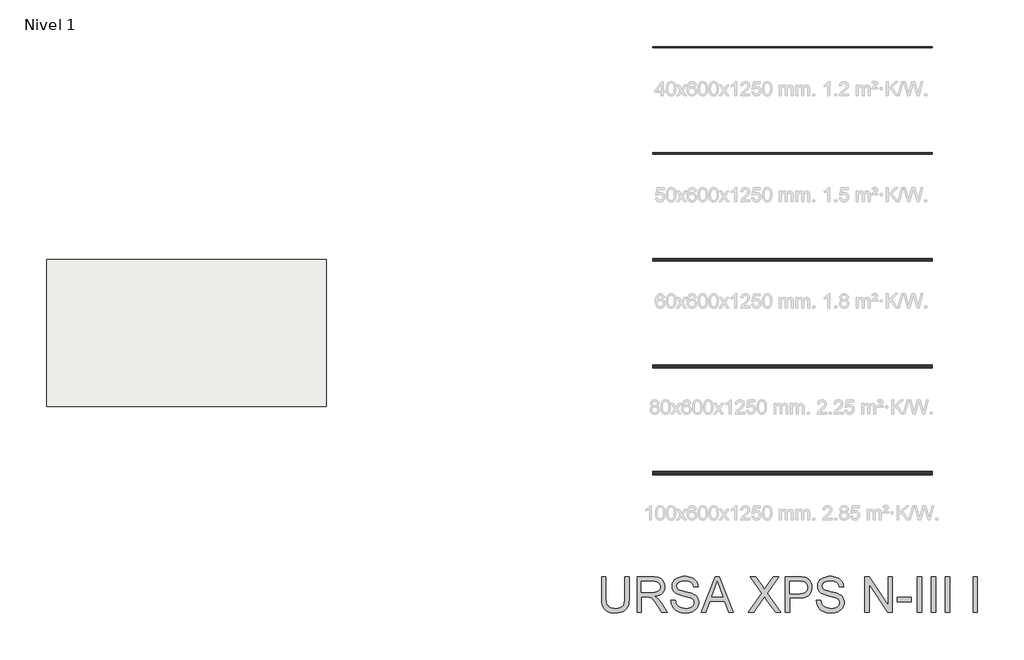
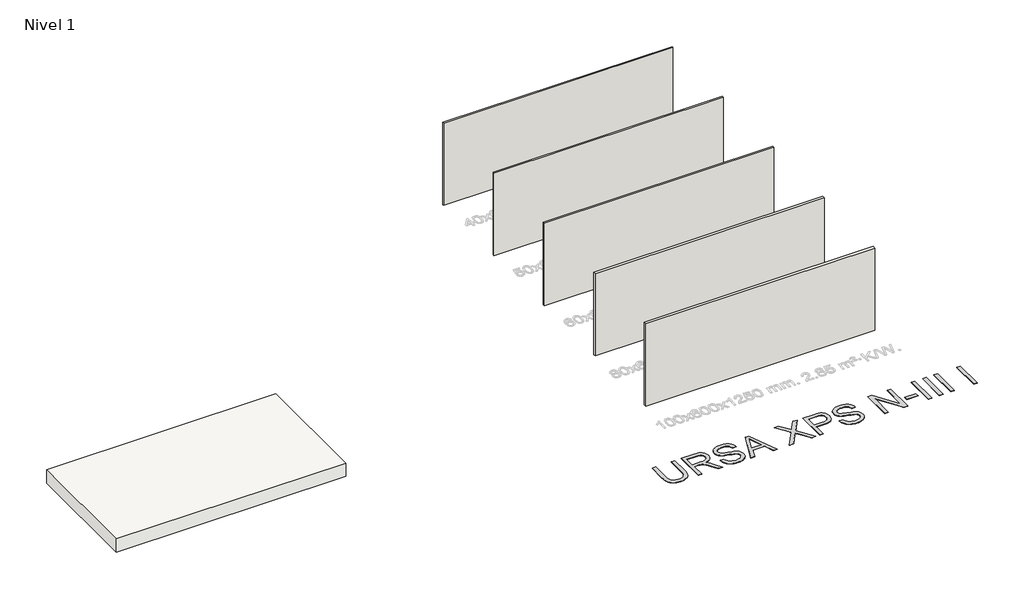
# One storey, part 1 of 6: 5 walls, 1 proxy, 1 slab.
"""IFC4 building model written with IfcOpenShell, lengths in millimetres."""

from ifc_helpers import new_model, si_unit, frame, origin, origin_with_axes, place, context, project, spatial, polyline, outline, extrude, element, save

model = new_model("IFC4")

# Units and contexts
model_context = context("Model", 3, world=origin())
ifc_project = project(units=[si_unit("LENGTHUNIT", "METRE", prefix="MILLI")], contexts=[model_context])

# Site, building, storey
site = spatial("IfcSite", under=ifc_project)
building = spatial("IfcBuilding", under=site)
storey = spatial("IfcBuildingStorey", under=building, Name="Nivel 1", Elevation=0.0)

# Proxy
placement = place(None, origin())
element("IfcBuildingElementProxy", 1, Name="Texto de modelo 2", ObjectType="Texto de modelo 2", at=placement, inside=storey, context=model_context, shape_type="SweptSolid", body=[
    extrude(outline(polyline([(-7324.4121984, -11003.8387308), (-7198.8418107, -11003.8387308), (-7198.8418107, -11583.3755006), (-7200.9724606, -11655.1354823), (-7207.3644103, -11719.0933), (-7218.0176597, -11775.2489537), (-7232.932209, -11823.6024434), (-7253.3956449, -11865.985515), (-7280.6955547, -11904.229914), (-7314.8319381, -11938.3356407), (-7355.8047954, -11968.3026949), (-7403.6601116, -11992.7131981), (-7458.443872, -12010.1492718), (-7520.1560767, -12020.6109161), (-7588.7967256, -12024.0981308), (-7655.7435845, -12021.0631043), (-7716.2984938, -12011.958025), (-7770.4614534, -11996.7828927), (-7818.2324633, -11975.5377074), (-7859.6191877, -11948.5367018), (-7894.629291, -11916.0941084), (-7923.2627729, -11878.2099271), (-7945.5196336, -11834.8841579), (-7962.2046149, -11784.6299446), (-7974.1224587, -11725.9604305), (-7981.273165, -11658.8756159), (-7983.6567338, -11583.3755006), (-7983.6567338, -11003.8387308), (-7858.0863461, -11003.8387308), (-7858.0863461, -11578.9609166), (-7856.538176, -11639.66911), (-7851.8936659, -11691.8087187), (-7844.1528155, -11735.3797425), (-7833.3156251, -11770.3821815), (-7818.7076442, -11799.3452244), (-7799.6544225, -11824.7980599), (-7776.1559601, -11846.7406881), (-7748.2122569, -11865.1731089), (-7716.3598075, -11879.7657614), (-7681.1351064, -11890.1890846), (-7642.5381538, -11896.4430785), (-7600.5689495, -11898.5277431), (-7531.3611491, -11894.4043991), (-7472.8525835, -11882.034367), (-7425.0432525, -11861.4176468), (-7405.1508001, -11848.0167788), (-7387.9331563, -11832.5542386), (-7373.0454318, -11814.1601389), (-7360.1427372, -11791.9645918), (-7340.2924379, -11736.1691559), (-7328.3822583, -11665.1679308), (-7324.4121984, -11578.9609166), (-7324.4121984, -11003.8387308)])), origin_with_axes(), (0.0, 0.0, 1.0), 10.0),
    extrude(outline(polyline([(-6979.0936323, -12008.4018323), (-6979.0936323, -11003.8387308), (-6546.2191513, -11003.8387308), (-6484.0854152, -11005.5325209), (-6429.8764703, -11010.6138909), (-6383.5923168, -11019.082841), (-6345.2329546, -11030.9393712), (-6312.5680991, -11047.0955221), (-6283.3674657, -11068.4633347), (-6257.6310545, -11095.0428088), (-6235.3588654, -11126.8339446), (-6217.3862971, -11162.1276235), (-6204.5487483, -11199.2147271), (-6196.846219, -11238.0952555), (-6194.2787092, -11278.7692086), (-6198.5323448, -11330.3646584), (-6211.2932515, -11377.7294653), (-6232.5614294, -11420.8636292), (-6262.3368784, -11459.7671502), (-6301.0028089, -11493.1984265), (-6348.9424314, -11519.9158564), (-6406.1557458, -11539.9194399), (-6472.6427523, -11553.209177), (-6431.2560278, -11580.2485036), (-6401.2736452, -11606.9199483), (-6349.8314795, -11667.9270458), (-6299.4929599, -11736.1691559), (-6131.9840247, -12008.4018323), (-6277.9105495, -12008.4018323), (-6408.6312851, -11800.1806231), (-6460.9318421, -11720.7181121), (-6503.0543305, -11662.3475022), (-6538.1564042, -11622.1563942), (-6569.395717, -11597.2323891), (-6598.9795608, -11582.6090798), (-6629.1152275, -11573.3200594), (-6701.9558626, -11568.9054754), (-6853.5232446, -11568.9054754), (-6853.5232446, -12008.4018323), (-6979.0936323, -12008.4018323)]), holes=[polyline([(-6853.5232446, -11443.3350877), (-6572.4614003, -11443.3350877), (-6491.7419592, -11438.889847), (-6429.1100495, -11425.5541246), (-6403.9254613, -11415.3300709), (-6381.9598405, -11402.4388726), (-6363.2131871, -11386.8805299), (-6347.6855012, -11368.6550427), (-6335.5070744, -11348.6591234), (-6326.808198, -11327.7894844), (-6321.5888722, -11306.0461257), (-6319.8490969, -11283.4290472), (-6323.1676991, -11251.3160147), (-6333.1235056, -11222.176695), (-6349.7165164, -11196.0110881), (-6372.9467316, -11172.819194), (-6403.3506456, -11153.827286), (-6441.4647532, -11140.2616374), (-6487.2890542, -11132.1222482), (-6540.8235487, -11129.4091185), (-6853.5232446, -11129.4091185), (-6853.5232446, -11443.3350877)])]), origin_with_axes(), (0.0, 0.0, 1.0), 10.0),
    extrude(outline(polyline([(-6021.6194262, -11663.0832662), (-5896.0490385, -11663.0832662), (-5890.3008823, -11699.6338753), (-5881.640327, -11732.7662475), (-5870.0673726, -11762.4803828), (-5855.582019, -11788.7762812), (-5837.4485023, -11812.1827732), (-5814.9310586, -11833.228689), (-5788.0296877, -11851.9140286), (-5756.7443897, -11868.2387922), (-5722.2247958, -11881.4902082), (-5685.6205373, -11890.9555054), (-5646.9316141, -11896.6346837), (-5606.1580263, -11898.5277431), (-5536.1991335, -11892.7949154), (-5504.4846399, -11885.6288807), (-5474.9467813, -11875.5964321), (-5448.3136577, -11863.0577874), (-5425.3133688, -11848.3731644), (-5405.9459146, -11831.5425632), (-5390.2112951, -11812.5659836), (-5378.0328682, -11792.263496), (-5369.3339919, -11771.4551706), (-5364.1146661, -11750.1410075), (-5362.3748908, -11728.3210067), (-5367.5865524, -11686.2904887), (-5383.2215372, -11649.9621417), (-5396.3733185, -11633.8443118), (-5414.9820161, -11618.9680836), (-5439.04763, -11605.3334572), (-5468.5701601, -11592.9404325), (-5534.8808897, -11573.2280889), (-5651.4075117, -11544.9931457), (-5771.4290126, -11513.2633237), (-5815.2299627, -11497.9732282), (-5848.2243791, -11483.0663432), (-5881.7552901, -11463.0627597), (-5910.7336615, -11440.8212274), (-5935.1594931, -11416.3417463), (-5955.0327851, -11389.6243164), (-5970.4301794, -11360.9448492), (-5981.4283182, -11330.5792562), (-5988.0272015, -11298.5275374), (-5990.2268293, -11264.7896928), (-5987.5060353, -11227.3960208), (-5979.3436536, -11191.2439506), (-5965.739684, -11156.333482), (-5946.6941265, -11122.6646153), (-5922.421579, -11091.6092435), (-5893.1366394, -11064.53926), (-5858.8393075, -11041.4546648), (-5819.5295835, -11022.3554579), (-5776.5333753, -11007.3872593), (-5731.176591, -10996.6956888), (-5683.4592305, -10990.2807465), (-5633.3812939, -10988.1424324), (-5578.7508177, -10990.3803812), (-5527.4312793, -10997.0942276), (-5479.422679, -11008.2839716), (-5434.7250165, -11023.9496132), (-5394.1660266, -11043.9531967), (-5358.5734435, -11068.1567663), (-5327.9472674, -11096.560322), (-5302.2874983, -11129.1638639), (-5281.7934055, -11165.01703), (-5266.6642584, -11203.1694586), (-5256.9000571, -11243.6211496), (-5252.5008016, -11286.3721031), (-5378.0711893, -11286.3721031), (-5386.4711615, -11246.3036225), (-5401.1251276, -11211.4468035), (-5422.0330877, -11181.801646), (-5449.1950417, -11157.3681502), (-5483.1168273, -11138.2689432), (-5524.3042824, -11124.6266526), (-5572.7574068, -11116.4412782), (-5628.4762007, -11113.7128201), (-5685.9730908, -11116.4106214), (-5735.1006656, -11124.5040253), (-5775.858925, -11137.9930317), (-5808.247869, -11156.8776408), (-5832.9266195, -11179.5790256), (-5850.5542984, -11204.5183592), (-5861.1309058, -11231.6956416), (-5864.6564416, -11261.1108728), (-5862.1579097, -11286.4180884), (-5854.662314, -11309.3647278), (-5842.1696546, -11329.9507911), (-5824.6799314, -11348.1762783), (-5797.1500955, -11365.4360753), (-5753.8013337, -11382.8798132), (-5694.6336461, -11400.5074921), (-5619.6470328, -11418.3191121), (-5481.2007753, -11451.9803146), (-5432.4870677, -11467.2014322), (-5397.4463077, -11481.3495606), (-5358.9489897, -11502.7940152), (-5325.8626028, -11526.9056143), (-5298.1871469, -11553.6843579), (-5275.922622, -11583.1302459), (-5258.808445, -11615.0899942), (-5246.5840328, -11649.4103187), (-5239.2493856, -11686.0912193), (-5236.8045031, -11725.1326961), (-5239.6172676, -11764.4117632), (-5248.0555608, -11802.5411992), (-5262.1193829, -11839.5210039), (-5281.8087339, -11875.3511774), (-5306.7787243, -11908.644498), (-5336.6844648, -11938.0137439), (-5371.5259555, -11963.4589153), (-5411.3031962, -11984.980012), (-5454.8588916, -12002.094189), (-5501.0357462, -12014.3186011), (-5549.83376, -12021.6532484), (-5601.252933, -12024.0981308), (-5665.4866622, -12021.4616432), (-5724.2788036, -12013.5521803), (-5777.6293571, -12000.3697421), (-5825.5383228, -11981.9143287), (-5868.2969405, -11958.1552832), (-5906.1964502, -11929.0619487), (-5939.2368519, -11894.6343253), (-5967.4181456, -11854.872413), (-5990.1195303, -11811.0637988), (-6006.7202054, -11764.4960695), (-6017.2201707, -11715.1692253), (-6021.6194262, -11663.0832662)])), origin_with_axes(), (0.0, 0.0, 1.0), 10.0),
    extrude(outline(polyline([(-5165.4353961, -12008.4018323), (-4764.4440213, -11003.8387308), (-4657.5129881, -11003.8387308), (-4256.5216133, -12008.4018323), (-4389.2043862, -12008.4018323), (-4504.2288234, -11694.4758631), (-4917.9734406, -11694.4758631), (-5032.7526231, -12008.4018323), (-5165.4353961, -12008.4018323)]), holes=[polyline([(-4871.8655639, -11568.9054754), (-4550.0914455, -11568.9054754), (-4640.5904163, -11321.9340293), (-4710.9785047, -11129.4091185), (-4773.5184439, -11300.351619), (-4871.8655639, -11568.9054754)])]), origin_with_axes(), (0.0, 0.0, 1.0), 10.0),
    extrude(outline(polyline([(-3839.8339401, -12008.4018323), (-3452.5768265, -11460.9934235), (-3777.0487463, -11003.8387308), (-3626.4623829, -11003.8387308), (-3443.7476586, -11261.1108728), (-3400.1536422, -11326.2872996), (-3382.1887381, -11361.4200302), (-3310.0838671, -11259.3940902), (-3129.3311801, -11003.8387308), (-2976.5375248, -11003.8387308), (-3301.0094445, -11462.4649515), (-2913.7523309, -12008.4018323), (-3064.3386943, -12008.4018323), (-3322.3466002, -11644.4439118), (-3376.0573715, -11568.9054754), (-3435.1637454, -11651.8015517), (-3687.0402848, -12008.4018323), (-3839.8339401, -12008.4018323)])), origin_with_axes(), (0.0, 0.0, 1.0), 10.0),
    extrude(outline(polyline([(-2788.1819432, -12008.4018323), (-2788.1819432, -11003.8387308), (-2415.8853641, -11003.8387308), (-2329.1878406, -11006.2299638), (-2265.7895101, -11013.4036627), (-2230.8483848, -11020.9375794), (-2198.8656438, -11031.2765963), (-2169.8412872, -11044.4207134), (-2143.775315, -11060.3699308), (-2120.3918157, -11079.4538093), (-2099.4148778, -11102.0019099), (-2080.8445012, -11128.0142326), (-2064.6806861, -11157.4907775), (-2051.5902184, -11189.45819), (-2042.2398844, -11222.9431158), (-2036.6296839, -11257.9455548), (-2034.7596171, -11294.465507), (-2039.8103303, -11356.1317265), (-2054.96247, -11412.8621958), (-2080.2160361, -11464.656915), (-2115.5710287, -11511.5158842), (-2137.8068129, -11532.3242095), (-2164.1084595, -11550.3580915), (-2194.4759685, -11565.6175301), (-2228.9093401, -11578.1025253), (-2267.4085741, -11587.8130771), (-2309.9736706, -11594.7491856), (-2407.3014509, -11600.2980724), (-2662.6115556, -11600.2980724), (-2662.6115556, -12008.4018323), (-2788.1819432, -12008.4018323)]), holes=[polyline([(-2662.6115556, -11474.7276847), (-2399.943811, -11474.7276847), (-2339.5498501, -11471.8459424), (-2288.5981938, -11463.2007155), (-2247.088842, -11448.792004), (-2215.0217948, -11428.6198079), (-2191.0941367, -11403.2206219), (-2174.0029523, -11373.1309403), (-2163.7482417, -11338.3507634), (-2160.3300048, -11298.880091), (-2162.3456916, -11269.5721587), (-2168.3927519, -11242.4715184), (-2178.4711857, -11217.57817), (-2192.580993, -11194.8921137), (-2209.9710815, -11175.1491133), (-2229.8903587, -11159.0849328), (-2252.3388246, -11146.6995723), (-2277.3164793, -11137.9930317), (-2325.7542753, -11131.5550968), (-2402.886867, -11129.4091185), (-2662.6115556, -11129.4091185), (-2662.6115556, -11474.7276847)])]), origin_with_axes(), (0.0, 0.0, 1.0), 10.0),
    extrude(outline(polyline([(-1909.1892294, -11663.0832662), (-1783.6188417, -11663.0832662), (-1777.8706856, -11699.6338753), (-1769.2101303, -11732.7662475), (-1757.6371758, -11762.4803828), (-1743.1518223, -11788.7762812), (-1725.0183056, -11812.1827732), (-1702.5008618, -11833.228689), (-1675.5994909, -11851.9140286), (-1644.3141929, -11868.2387922), (-1609.794599, -11881.4902082), (-1573.1903405, -11890.9555054), (-1534.5014173, -11896.6346837), (-1493.7278295, -11898.5277431), (-1423.7689368, -11892.7949154), (-1392.0544431, -11885.6288807), (-1362.5165846, -11875.5964321), (-1335.883461, -11863.0577874), (-1312.8831721, -11848.3731644), (-1293.5157179, -11831.5425632), (-1277.7810984, -11812.5659836), (-1265.6026715, -11792.263496), (-1256.9037951, -11771.4551706), (-1251.6844693, -11750.1410075), (-1249.9446941, -11728.3210067), (-1255.1563557, -11686.2904887), (-1270.7913405, -11649.9621417), (-1283.9431218, -11633.8443118), (-1302.5518194, -11618.9680836), (-1326.6174332, -11605.3334572), (-1356.1399633, -11592.9404325), (-1422.450693, -11573.2280889), (-1538.977315, -11544.9931457), (-1658.9988159, -11513.2633237), (-1702.7997659, -11497.9732282), (-1735.7941824, -11483.0663432), (-1769.3250934, -11463.0627597), (-1798.3034647, -11440.8212274), (-1822.7292964, -11416.3417463), (-1842.6025883, -11389.6243164), (-1857.9999826, -11360.9448492), (-1868.9981215, -11330.5792562), (-1875.5970047, -11298.5275374), (-1877.7966325, -11264.7896928), (-1875.0758386, -11227.3960208), (-1866.9134568, -11191.2439506), (-1853.3094872, -11156.333482), (-1834.2639297, -11122.6646153), (-1809.9913823, -11091.6092435), (-1780.7064426, -11064.53926), (-1746.4091108, -11041.4546648), (-1707.0993867, -11022.3554579), (-1664.1031786, -11007.3872593), (-1618.7463942, -10996.6956888), (-1571.0290338, -10990.2807465), (-1520.9510972, -10988.1424324), (-1466.3206209, -10990.3803812), (-1415.0010826, -10997.0942276), (-1366.9924822, -11008.2839716), (-1322.2948198, -11023.9496132), (-1281.7358298, -11043.9531967), (-1246.1432468, -11068.1567663), (-1215.5170707, -11096.560322), (-1189.8573015, -11129.1638639), (-1169.3632087, -11165.01703), (-1154.2340617, -11203.1694586), (-1144.4698604, -11243.6211496), (-1140.0706048, -11286.3721031), (-1265.6409925, -11286.3721031), (-1274.0409648, -11246.3036225), (-1288.6949309, -11211.4468035), (-1309.602891, -11181.801646), (-1336.7648449, -11157.3681502), (-1370.6866306, -11138.2689432), (-1411.8740856, -11124.6266526), (-1460.3272101, -11116.4412782), (-1516.0460039, -11113.7128201), (-1573.5428941, -11116.4106214), (-1622.6704689, -11124.5040253), (-1663.4287282, -11137.9930317), (-1695.8176722, -11156.8776408), (-1720.4964227, -11179.5790256), (-1738.1241017, -11204.5183592), (-1748.700709, -11231.6956416), (-1752.2262448, -11261.1108728), (-1749.7277129, -11286.4180884), (-1742.2321173, -11309.3647278), (-1729.7394579, -11329.9507911), (-1712.2497347, -11348.1762783), (-1684.7198987, -11365.4360753), (-1641.3711369, -11382.8798132), (-1582.2034494, -11400.5074921), (-1507.216836, -11418.3191121), (-1368.7705785, -11451.9803146), (-1320.056871, -11467.2014322), (-1285.0161109, -11481.3495606), (-1246.518793, -11502.7940152), (-1213.4324061, -11526.9056143), (-1185.7569501, -11553.6843579), (-1163.4924252, -11583.1302459), (-1146.3782482, -11615.0899942), (-1134.1538361, -11649.4103187), (-1126.8191888, -11686.0912193), (-1124.3743064, -11725.1326961), (-1127.1870708, -11764.4117632), (-1135.6253641, -11802.5411992), (-1149.6891862, -11839.5210039), (-1169.3785371, -11875.3511774), (-1194.3485276, -11908.644498), (-1224.2542681, -11938.0137439), (-1259.0957587, -11963.4589153), (-1298.8729994, -11984.980012), (-1342.4286948, -12002.094189), (-1388.6055494, -12014.3186011), (-1437.4035632, -12021.6532484), (-1488.8227363, -12024.0981308), (-1553.0564655, -12021.4616432), (-1611.8486068, -12013.5521803), (-1665.1991603, -12000.3697421), (-1713.108126, -11981.9143287), (-1755.8667437, -11958.1552832), (-1793.7662534, -11929.0619487), (-1826.8066551, -11894.6343253), (-1854.9879488, -11854.872413), (-1877.6893336, -11811.0637988), (-1894.2900086, -11764.4960695), (-1904.7899739, -11715.1692253), (-1909.1892294, -11663.0832662)])), origin_with_axes(), (0.0, 0.0, 1.0), 10.0),
    extrude(outline(polyline([(-543.6112633, -12008.4018323), (-543.6112633, -11003.8387308), (-409.2117078, -11003.8387308), (115.633272, -11799.6901137), (115.633272, -11003.8387308), (241.2036597, -11003.8387308), (241.2036597, -12008.4018323), (106.8041041, -12008.4018323), (-418.0408756, -11212.3051948), (-418.0408756, -12008.4018323), (-543.6112633, -12008.4018323)])), origin_with_axes(), (0.0, 0.0, 1.0), 10.0),
    extrude(outline(polyline([(382.4703459, -11710.1721616), (382.4703459, -11584.6017739), (774.8778074, -11584.6017739), (774.8778074, -11710.1721616), (382.4703459, -11710.1721616)])), origin_with_axes(), (0.0, 0.0, 1.0), 10.0),
    extrude(outline(polyline([(947.5370904, -12008.4018323), (947.5370904, -11003.8387308), (1073.1074781, -11003.8387308), (1073.1074781, -12008.4018323), (947.5370904, -12008.4018323)])), origin_with_axes(), (0.0, 0.0, 1.0), 10.0),
    extrude(outline(polyline([(1339.944552, -12008.4018323), (1339.944552, -11003.8387308), (1465.5149397, -11003.8387308), (1465.5149397, -12008.4018323), (1339.944552, -12008.4018323)])), origin_with_axes(), (0.0, 0.0, 1.0), 10.0),
    extrude(outline(polyline([(1732.3520135, -12008.4018323), (1732.3520135, -11003.8387308), (1857.9224012, -11003.8387308), (1857.9224012, -12008.4018323), (1732.3520135, -12008.4018323)])), origin_with_axes(), (0.0, 0.0, 1.0), 10.0),
    extrude(outline(polyline([(2517.1669365, -12008.4018323), (2517.1669365, -11003.8387308), (2642.7373242, -11003.8387308), (2642.7373242, -12008.4018323), (2517.1669365, -12008.4018323)])), origin_with_axes(), (0.0, 0.0, 1.0), 10.0),
])

# Slab
element("IfcSlab", 2, ObjectType="Aislamiento bajo losa de cimentación, Ursa XPS de Ursa. Poliestireno extrusionado URSA XPS N-V L, 90x600x1250 mm.", at=placement, inside=storey, context=model_context, shape_type="SweptSolid", body=[
    extrude(outline(polyline([(-15769.5892022, -2020.2851318), (-15769.5892022, -6187.1000163), (-23669.5892022, -6187.1000163), (-23669.5892022, -2020.2851318), (-15769.5892022, -2020.2851318)])), frame((0.0, 0.0, -490.0), z_axis=(0.0, 0.0, 1.0), x_axis=(1.0, 0.0, 0.0)), (0.0, 0.0, 1.0), 490.0),
])

# Walls
element("IfcWall", 3, ObjectType="Panel de poliestireno extruido, URSA XPS N-III I de URSA. 40x600x1250 mm. 1.2 m²·K/W. De superficie lisa y mecanizado lateral recto. En panel.", at=placement, inside=storey, context=model_context, shape_type="SweptSolid", body=[
    extrude(outline(polyline([(1368.7582768, 3960.3831431), (-6531.2417232, 3960.3831431), (-6531.2417232, 4000.3831431), (1368.7582768, 4000.3831431), (1368.7582768, 3960.3831431)])), origin_with_axes(), (0.0, 0.0, 1.0), 3000.0),
])
element("IfcWall", 4, ObjectType="Panel de poliestireno extruido, URSA XPS N-III I de URSA. 50x600x1250 mm. 1.5 m²·K/W. De superficie lisa y mecanizado lateral recto. En panel.", at=placement, inside=storey, context=model_context, shape_type="SweptSolid", body=[
    extrude(outline(polyline([(1368.7582768, 950.3831431), (-6531.2417232, 950.3831431), (-6531.2417232, 1000.3831431), (1368.7582768, 1000.3831431), (1368.7582768, 950.3831431)])), origin_with_axes(), (0.0, 0.0, 1.0), 3000.0),
])
element("IfcWall", 5, ObjectType="Panel de poliestireno extruido, URSA XPS N-III I de URSA. 60x600x1250 mm. 1.8 m²·K/W. De superficie lisa y mecanizado lateral recto. En panel.", at=placement, inside=storey, context=model_context, shape_type="SweptSolid", body=[
    extrude(outline(polyline([(1368.7582768, -2063.6168569), (-6531.2417232, -2063.6168569), (-6531.2417232, -2003.6168569), (1368.7582768, -2003.6168569), (1368.7582768, -2063.6168569)])), origin_with_axes(), (0.0, 0.0, 1.0), 3000.0),
])
element("IfcWall", 6, ObjectType="Panel de poliestireno extruido, URSA XPS N-III I de URSA. 80x600x1250 mm. 2.25 m²·K/W. De superficie lisa y mecanizado lateral recto. En panel.", at=placement, inside=storey, context=model_context, shape_type="SweptSolid", body=[
    extrude(outline(polyline([(1368.7582768, -5087.6168569), (-6531.2417232, -5087.6168569), (-6531.2417232, -5007.6168569), (1368.7582768, -5007.6168569), (1368.7582768, -5087.6168569)])), origin_with_axes(), (0.0, 0.0, 1.0), 3000.0),
])
element("IfcWall", 7, ObjectType="Panel de poliestireno extruido, URSA XPS N-III I de URSA. 100x600x1250 mm. 2.8 m²·K/W. De superficie lisa y mecanizado lateral recto. En panel.", at=placement, inside=storey, context=model_context, shape_type="SweptSolid", body=[
    extrude(outline(polyline([(1368.7582768, -8111.6168569), (-6531.2417232, -8111.6168569), (-6531.2417232, -8011.6168569), (1368.7582768, -8011.6168569), (1368.7582768, -8111.6168569)])), origin_with_axes(), (0.0, 0.0, 1.0), 3000.0),
])

save(model, "model.ifc")
